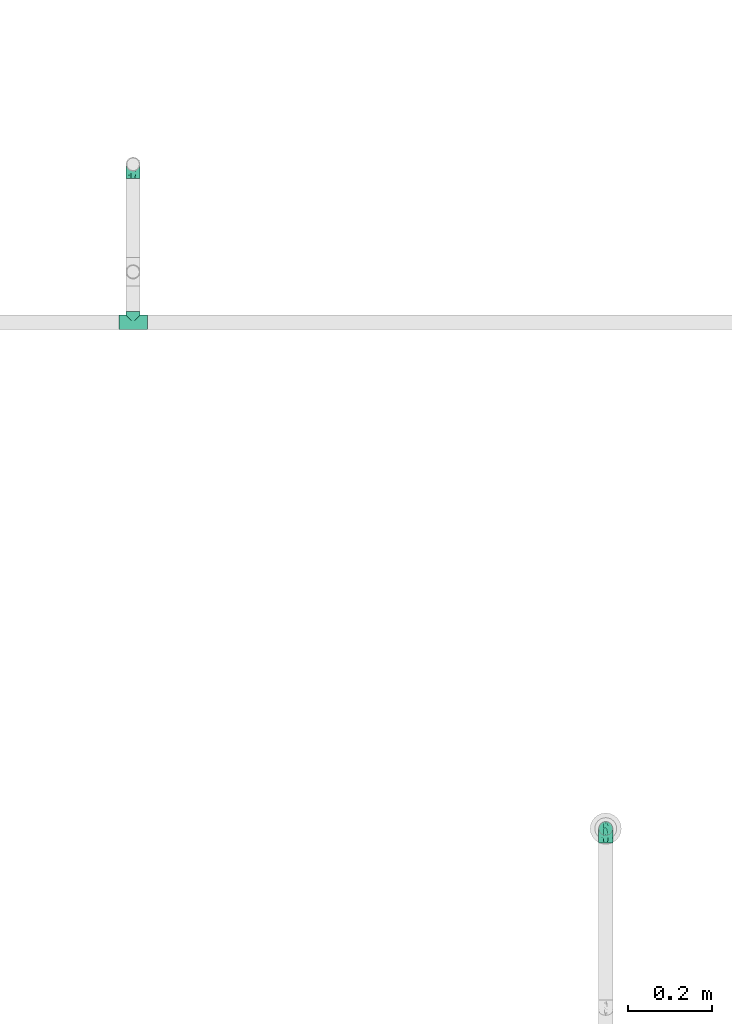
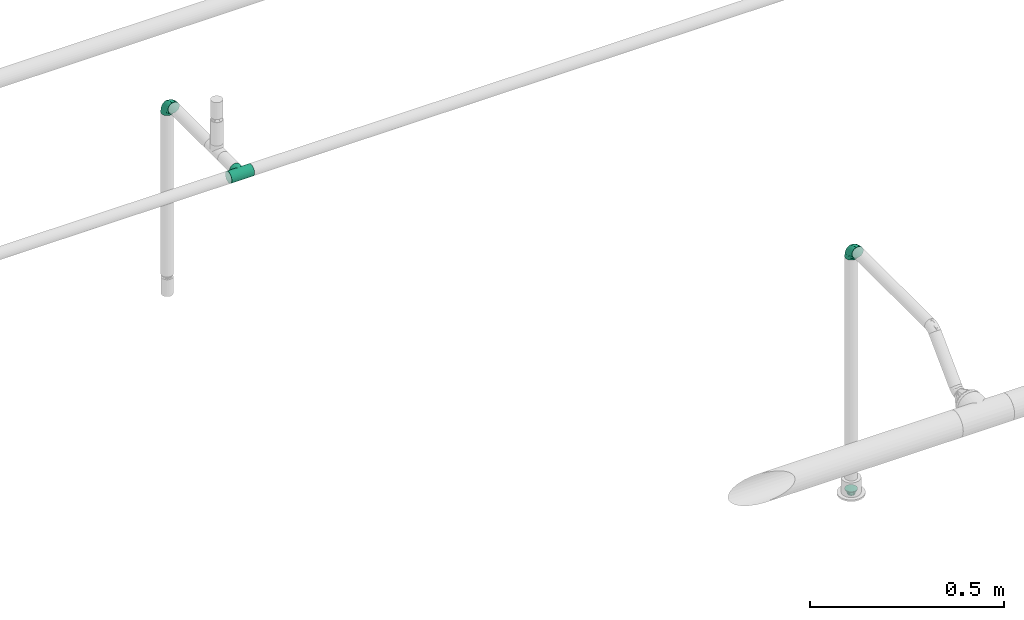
# One storey, part 30 of 51: 4 flow fittings.
"""IFC2X3 building model written with IfcOpenShell, lengths in millimetres."""

from ifc_helpers import new_model, entity, si_unit, converted_unit, derived_unit, direction, frame, origin_with_axes, place, context, subcontext, project, spatial, open_shell, surface_model, source, transform, mapped, type_object, element, save


model = new_model("IFC2X3")

# Units and contexts
model_context = context("Model", 3, precision=0.01, world=frame((0.0, 4.29681676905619e-09, 0.0)), true_north=direction((4.01073788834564e-13, 1.0)))
plan_context = context("Plan", 3, precision=0.01, world=frame((0.0, 4.29681676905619e-09, 0.0)), true_north=direction((4.01073788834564e-13, 1.0)))
body_context = subcontext(model_context, "Body", "Model", "MODEL_VIEW")
ifc_project = project(units=[converted_unit("PLANEANGLEUNIT", "DEGREE", entity("IfcPositiveLengthMeasure", 0.0174532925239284), si_unit("PLANEANGLEUNIT", "RADIAN"), dimensions=[0, 0, 0, 0, 0, 0, 0]), si_unit("AREAUNIT", "SQUARE_METRE"), si_unit("LENGTHUNIT", "METRE", prefix="MILLI"), si_unit("MASSUNIT", "GRAM", prefix="KILO"), si_unit("POWERUNIT", "WATT"), si_unit("PRESSUREUNIT", "PASCAL"), si_unit("FORCEUNIT", "NEWTON", prefix="KILO"), si_unit("ELECTRICVOLTAGEUNIT", "VOLT"), si_unit("ELECTRICCURRENTUNIT", "AMPERE"), si_unit("THERMODYNAMICTEMPERATUREUNIT", "DEGREE_CELSIUS"), si_unit("TIMEUNIT", "SECOND"), si_unit("VOLUMEUNIT", "CUBIC_METRE"), derived_unit("LINEARVELOCITYUNIT", [(si_unit("LENGTHUNIT", "METRE"), 1), (si_unit("TIMEUNIT", "SECOND"), -1)]), derived_unit("VOLUMETRICFLOWRATEUNIT", [(si_unit("VOLUMEUNIT", "CUBIC_METRE"), 1), (si_unit("TIMEUNIT", "SECOND"), -1)]), derived_unit("THERMALTRANSMITTANCEUNIT", [(si_unit("POWERUNIT", "WATT"), 1), (si_unit("THERMODYNAMICTEMPERATUREUNIT", "KELVIN"), -1), (si_unit("AREAUNIT", "SQUARE_METRE"), -1)]), derived_unit("SOUNDPRESSUREUNIT", [(si_unit("PRESSUREUNIT", "PASCAL"), 1)])], contexts=[model_context, plan_context])

# Site, building, storey
site_placement = place(None, frame((0.0, -4.29681676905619e-09, 0.0), z_axis=(0.0, 0.0, 1.0), x_axis=(1.0, 0.0, 0.0)))
site = spatial("IfcSite", under=ifc_project, at=site_placement, Name="ENGM", CompositionType="ELEMENT")
building_placement = place(site_placement, frame((0.0, 4.29681676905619e-09, 0.0), z_axis=(0.0, 0.0, 1.0), x_axis=(1.0, 0.0, 0.0)))
building = spatial("IfcBuilding", under=site, at=building_placement, Name="TH", CompositionType="ELEMENT")
storey_placement = place(building_placement, frame((0.0, 0.0, 210200.0), z_axis=(0.0, 0.0, 1.0), x_axis=(1.0, 0.0, 0.0)))
storey = spatial("IfcBuildingStorey", under=building, at=storey_placement, Name="Nivå F - 0,7 m", CompositionType="ELEMENT", Elevation=210200.0)

# Flow fittings
pipe_fitting_type_1 = type_object("IfcPipeFittingType", Name="magi_pipe_fe_elbow_short_001", PredefinedType="BEND")
shared_shape_1 = source(origin_with_axes(), body_context, "Body", "SurfaceModel", [
    surface_model("IfcShellBasedSurfaceModel", [(-33.8, 8.45, -14.63583), (-33.8, 4.37404, -16.32415), (-33.8, 11.9501, -11.9501), (-33.8, -11.9501, -11.9501), (-33.8, -14.63583, -8.45), (-33.8, -8.45, -14.63583), (-33.8, 0.0, -16.9), (-33.8, -4.37404, -16.32415), (-33.8, -4.37404, 16.32415), (-33.8, 0.0, 16.9), (-33.8, -8.45, 14.63583), (-33.8, 16.32415, -4.37404), (-33.8, 14.63583, -8.45), (-33.8, -16.32415, -4.37404), (-33.8, -16.9, 0.0), (-33.8, -16.32415, 4.37404), (-33.8, 11.9501, 11.9501), (-33.8, 14.63583, 8.45), (-33.8, 16.32415, 4.37404), (-33.8, 4.37404, 16.32415), (-33.8, 8.45, 14.63583), (-33.8, -14.63583, 8.45), (-33.8, -11.9501, 11.9501), (-33.8, 16.9, 0.0), (-11.9501, 33.8, -11.9501), (0.0, 33.8, -16.9), (-4.37404, 33.8, -16.32415), (-8.45, 33.8, -14.63583), (-14.63583, 33.8, -8.45), (-16.32415, 33.8, -4.37404), (14.63583, 33.8, -8.45), (8.45, 33.8, 14.63583), (16.32415, 33.8, -4.37404), (8.45, 33.8, -14.63583), (11.9501, 33.8, -11.9501), (4.37404, 33.8, -16.32415), (16.32415, 33.8, 4.37404), (16.9, 33.8, 0.0), (-11.9501, 33.8, 11.9501), (-16.32415, 33.8, 4.37404), (-14.63583, 33.8, 8.45), (-8.45, 33.8, 14.63583), (-4.37404, 33.8, 16.32415), (11.9501, 33.8, 11.9501), (14.63583, 33.8, 8.45), (0.0, 33.8, 16.9), (4.37404, 33.8, 16.32415), (-16.9, 33.8, 0.0), (-24.79389, -13.12945, 9.48721), (-22.19287, -9.75018, 12.59315), (-24.09897, -14.97035, 0.0), (-14.93934, -10.76256, 8.5297), (-22.46095, -14.75051, 5.27077), (14.75051, 22.46094, 5.27077), (11.9251, 13.23888, 4.33236), (13.04069, 14.39795, 0.0), (7.71387, 13.68847, 11.55891), (9.75018, 22.19287, 12.59315), (4.10169, 13.0571, 14.04018), (-24.84007, -6.39063, 15.2048), (-25.81779, -2.23879, 16.61097), (-23.66549, 2.59054, 16.87119), (-26.50418, 14.06512, 11.08152), (-24.21253, 17.66365, 7.72657), (-29.58514, 15.86957, 7.00283), (-6.17382, -7.5455, 0.0), (-13.23888, -11.9251, 4.33236), (-14.39795, -13.04069, 0.0), (-17.81434, 18.87373, 11.97104), (-6.30846, 29.15138, 15.82987), (-2.31622, 25.28002, 16.85849), (-29.23923, 10.23435, 13.77053), (-1.45439, -2.85688, 7.61475), (-0.28326, 0.34872, 10.09509), (-5.74484, -4.04709, 10.4122), (-4.41137, 11.31918, 16.59407), (-8.39727, 3.10034, 15.7812), (-1.72649, 9.1306, 15.53089), (-17.39909, 24.75344, 7.64977), (-26.19233, 20.0512, 0.0), (-28.14518, 17.29657, 4.25857), (-26.05147, 6.6281, 15.96447), (-5.87354, 16.61944, 16.86968), (-12.51807, 12.51807, 16.48937), (-10.06312, 7.38516, 16.81295), (-3.01882, 3.01882, 13.81718), (-13.0571, -4.10169, 14.04018), (-16.82553, -0.15166, 16.38038), (10.76256, 14.93934, 8.5297), (13.12945, 24.79389, 9.48721), (6.39063, 24.84007, 15.2048), (2.23879, 25.81779, 16.61097), (-13.68847, -7.71387, 11.55891), (14.97035, 24.09897, 0.0), (-7.30894, 22.89991, 16.09489), (-10.67958, 26.17414, 14.008), (-12.78295, 18.26924, 15.06066), (-13.88562, 22.45231, 12.93244), (-18.04944, 15.16501, 14.04434), (-23.11658, 20.08178, 4.02986), (-21.84989, 21.84989, 0.0), (-18.55817, 25.48277, 3.93065), (-13.95142, 26.94732, 11.03289), (-18.57098, 7.23906, 16.59756), (-16.58335, 4.14122, 16.89279), (-17.96666, 11.46709, 15.63151), (-9.84453, 17.54304, 16.18938), (0.15166, 16.82553, 16.38038), (-23.27207, 11.47201, 14.23154), (3.84842, 5.86994, 10.70473), (-8.0212, -7.54413, 7.93275), (1.00345, -2.19508, 4.57414), (5.13203, 3.01004, 5.90201), (5.24161, 1.7543, 2.53265), (8.70457, 7.04947, 3.99182), (-20.0512, 26.19233, 0.0), (8.4852, 8.76699, 7.09296), (-4.55488, -6.72064, 4.90681), (2.05031, -2.05031, 0.0), (7.5455, 6.17382, 0.0), (-26.75399, 2.1369, -16.845), (-14.61995, 24.73803, -11.27736), (-28.45274, -13.45335, -9.81895), (-26.00469, 6.63555, -15.96645), (-23.06726, 20.04573, -4.26202), (-13.80647, -4.26506, -14.17873), (-14.67501, -0.21081, -16.07388), (-6.7902, -0.2828, -13.8478), (-24.53586, 11.08096, -14.13417), (-26.72048, 14.00837, -11.05776), (10.0967, 24.44989, -12.75976), (5.83237, 21.40218, -15.03047), (6.66249, 28.54238, -15.38093), (-20.38182, 15.48705, -12.74596), (12.53268, 21.23441, -9.15363), (12.54494, 15.67504, -5.54878), (9.7522, 12.89279, -8.66343), (-15.65186, 19.64213, -13.01327), (-12.03528, 20.66498, -14.67665), (-15.61907, 15.61906, -14.83879), (-25.56551, -15.26206, 0.0), (-24.65452, -15.12934, -5.50955), (13.45335, 28.45274, -9.81895), (15.12934, 24.65452, -5.50955), (-7.35442, -8.31014, -5.65563), (-15.67504, -12.54494, -5.54878), (-24.44989, -10.0967, -12.75976), (0.16522, 0.41303, -9.71728), (-5.70658, -5.33066, -8.89288), (-5.13869, -2.37198, -11.53565), (-21.23441, -12.53268, -9.15363), (0.71146, 7.93863, -14.09382), (0.21081, 14.67501, -16.07388), (3.49291, 14.42772, -14.76381), (-24.89911, -2.13088, -16.591), (-28.54238, -6.66249, -15.38093), (-18.44386, -7.71663, -13.26957), (2.13088, 24.89911, -16.591), (-28.64342, 17.44413, -2.89318), (1.70017, -1.28722, -5.09504), (-16.57067, 26.81947, -7.36596), (-17.69055, 27.4263, -3.76405), (-12.89279, -9.7522, -8.66343), (-5.96611, 5.96611, -15.95814), (-20.53709, 20.09345, -8.28985), (-2.1369, 26.75399, -16.845), (-6.89872, 24.58781, -16.02578), (-10.60739, 26.53157, -13.98044), (-21.40218, -5.83237, -15.03047), (2.93192, 5.89627, -11.55917), (6.89393, 12.61842, -11.82233), (5.58056, 5.95325, -8.79455), (-3.99512, 18.61798, -16.89635), (8.31014, 7.35442, -5.65563), (-9.1383, 9.86148, -16.89041), (-9.99983, 16.02119, -16.39699), (-16.68576, 9.78031, -16.34199), (-27.01915, 16.61158, -7.12979), (15.26206, 25.56551, 0.0), (-18.61798, 3.99512, -16.89635), (-19.37495, 27.82495, 0.0), (-12.61842, -6.89393, -11.82233), (-18.84705, 19.14018, -10.96545)], [open_shell([[[0, 1, 2]], [[3, 4, 5]], [[6, 7, 5]], [[8, 9, 10]], [[1, 6, 2]], [[11, 12, 2]], [[4, 2, 6]], [[2, 13, 10]], [[5, 4, 6]], [[2, 4, 13]], [[14, 15, 13]], [[11, 2, 16]], [[11, 17, 18]], [[11, 16, 17]], [[19, 20, 16]], [[16, 2, 10]], [[19, 16, 10]], [[21, 22, 15]], [[22, 13, 15]], [[22, 10, 13]], [[10, 9, 19]], [[11, 18, 23]], [[24, 25, 26]], [[24, 26, 27]], [[24, 28, 29]], [[25, 24, 30]], [[31, 32, 24]], [[33, 30, 34]], [[33, 35, 25]], [[25, 30, 33]], [[32, 30, 24]], [[32, 36, 37]], [[38, 24, 29]], [[39, 40, 29]], [[40, 38, 29]], [[38, 41, 42]], [[38, 31, 24]], [[31, 38, 42]], [[36, 43, 44]], [[36, 32, 43]], [[31, 45, 46]], [[32, 31, 43]], [[42, 45, 31]], [[39, 29, 47]], [[22, 48, 49]], [[15, 14, 50]], [[51, 48, 52]], [[53, 54, 55]], [[48, 22, 21]], [[15, 52, 21]], [[56, 57, 58]], [[49, 10, 22]], [[49, 59, 10]], [[9, 60, 61]], [[62, 63, 64]], [[65, 66, 67]], [[57, 43, 31]], [[62, 68, 63]], [[42, 69, 70]], [[20, 71, 16]], [[8, 60, 9]], [[72, 73, 74]], [[75, 76, 77]], [[16, 62, 17]], [[40, 39, 78]], [[79, 23, 80]], [[64, 18, 17]], [[9, 61, 19]], [[19, 81, 20]], [[82, 83, 84]], [[74, 85, 86]], [[59, 86, 87]], [[88, 89, 57]], [[90, 31, 46]], [[44, 53, 36]], [[46, 45, 91]], [[54, 53, 88]], [[44, 89, 53]], [[92, 86, 49]], [[89, 44, 43]], [[10, 59, 8]], [[53, 55, 93]], [[93, 36, 53]], [[66, 52, 67]], [[94, 82, 70]], [[95, 96, 94]], [[97, 98, 96]], [[79, 99, 100]], [[41, 38, 95]], [[101, 100, 99]], [[68, 78, 63]], [[42, 41, 69]], [[23, 18, 80]], [[95, 94, 69]], [[78, 101, 99]], [[38, 102, 95]], [[70, 45, 42]], [[97, 95, 102]], [[15, 50, 52]], [[90, 57, 31]], [[57, 90, 58]], [[81, 19, 61]], [[103, 104, 84]], [[105, 81, 103]], [[38, 40, 102]], [[106, 96, 83]], [[94, 106, 82]], [[91, 70, 107]], [[71, 62, 16]], [[62, 108, 98]], [[86, 59, 49]], [[67, 52, 50]], [[60, 59, 87]], [[92, 49, 51]], [[86, 85, 76]], [[91, 90, 46]], [[37, 36, 93]], [[107, 77, 58]], [[107, 58, 90]], [[58, 85, 109]], [[110, 74, 92]], [[72, 74, 110]], [[66, 51, 52]], [[72, 111, 112]], [[113, 114, 112]], [[56, 88, 57]], [[52, 48, 21]], [[49, 48, 51]], [[57, 89, 43]], [[53, 89, 88]], [[103, 81, 61]], [[71, 81, 108]], [[18, 64, 80]], [[63, 78, 99]], [[47, 115, 101]], [[101, 115, 100]], [[40, 78, 102]], [[68, 102, 78]], [[97, 96, 95]], [[105, 98, 108]], [[103, 84, 83]], [[107, 70, 82]], [[76, 84, 87]], [[82, 84, 75]], [[70, 91, 45]], [[90, 91, 107]], [[59, 60, 8]], [[61, 60, 87]], [[73, 85, 74]], [[109, 112, 116]], [[103, 61, 104]], [[105, 103, 83]], [[96, 105, 83]], [[81, 105, 108]], [[96, 98, 105]], [[62, 98, 68]], [[61, 87, 104]], [[87, 84, 104]], [[86, 76, 87]], [[77, 76, 85]], [[58, 77, 85]], [[75, 77, 107]], [[82, 75, 107]], [[76, 75, 84]], [[81, 71, 20]], [[62, 71, 108]], [[95, 69, 41]], [[70, 69, 94]], [[62, 64, 17]], [[80, 63, 99]], [[63, 80, 64]], [[80, 99, 79]], [[66, 65, 117]], [[110, 66, 117]], [[112, 114, 116]], [[118, 117, 65]], [[110, 92, 51]], [[112, 111, 113]], [[119, 55, 54]], [[74, 86, 92]], [[58, 109, 56]], [[116, 56, 109]], [[66, 110, 51]], [[72, 110, 117]], [[111, 72, 117]], [[73, 112, 109]], [[117, 118, 111]], [[113, 111, 118]], [[118, 119, 113]], [[114, 119, 54]], [[119, 114, 113]], [[116, 54, 88]], [[54, 116, 114]], [[116, 88, 56]], [[112, 73, 72]], [[85, 73, 109]], [[78, 39, 101]], [[47, 101, 39]], [[102, 68, 97]], [[97, 68, 98]], [[82, 106, 83]], [[94, 96, 106]], [[1, 120, 6]], [[28, 24, 121]], [[3, 122, 4]], [[0, 123, 1]], [[100, 124, 79]], [[125, 126, 127]], [[128, 2, 129]], [[130, 131, 132]], [[128, 129, 133]], [[134, 135, 136]], [[137, 138, 139]], [[128, 0, 2]], [[67, 140, 141]], [[134, 142, 143]], [[141, 13, 4]], [[144, 65, 145]], [[146, 3, 5]], [[147, 148, 149]], [[145, 141, 150]], [[151, 152, 153]], [[154, 7, 6]], [[5, 155, 146]], [[150, 146, 156]], [[155, 5, 7]], [[143, 135, 134]], [[35, 157, 25]], [[23, 79, 158]], [[148, 159, 144]], [[160, 161, 29]], [[145, 162, 144]], [[163, 152, 151]], [[29, 28, 160]], [[121, 164, 160]], [[33, 34, 130]], [[25, 165, 26]], [[26, 165, 166]], [[142, 34, 30]], [[24, 27, 167]], [[124, 161, 164]], [[157, 35, 132]], [[155, 154, 168]], [[123, 0, 128]], [[169, 170, 171]], [[172, 157, 152]], [[26, 166, 27]], [[132, 35, 33]], [[142, 130, 34]], [[168, 154, 126]], [[136, 135, 173]], [[133, 137, 139]], [[2, 12, 129]], [[170, 131, 130]], [[30, 32, 143]], [[172, 174, 175]], [[176, 123, 128]], [[158, 177, 11]], [[135, 55, 119]], [[167, 27, 166]], [[175, 166, 172]], [[137, 167, 138]], [[122, 141, 4]], [[140, 14, 13]], [[32, 37, 178]], [[170, 130, 134]], [[152, 157, 131]], [[165, 157, 172]], [[153, 170, 151]], [[152, 163, 174]], [[168, 125, 156]], [[122, 146, 150]], [[120, 154, 6]], [[179, 174, 126]], [[179, 126, 154]], [[126, 163, 127]], [[162, 145, 150]], [[140, 13, 141]], [[32, 178, 143]], [[55, 143, 178]], [[177, 129, 12]], [[128, 133, 139]], [[176, 128, 139]], [[120, 123, 179]], [[121, 160, 28]], [[161, 100, 180]], [[166, 175, 138]], [[121, 24, 167]], [[161, 47, 29]], [[79, 124, 158]], [[124, 164, 177]], [[161, 124, 100]], [[136, 171, 170]], [[127, 163, 151]], [[147, 171, 159]], [[148, 144, 162]], [[127, 151, 169]], [[127, 181, 125]], [[129, 177, 164]], [[12, 11, 177]], [[159, 65, 144]], [[67, 141, 145]], [[143, 55, 135]], [[135, 119, 173]], [[123, 120, 1]], [[154, 120, 179]], [[157, 165, 25]], [[166, 165, 172]], [[172, 152, 174]], [[176, 139, 175]], [[126, 174, 163]], [[176, 174, 179]], [[174, 176, 175]], [[123, 176, 179]], [[150, 181, 162]], [[127, 149, 181]], [[181, 148, 162]], [[159, 148, 147]], [[171, 136, 173]], [[170, 134, 136]], [[159, 171, 173]], [[171, 147, 169]], [[169, 147, 149]], [[151, 170, 169]], [[164, 182, 129]], [[182, 121, 137]], [[181, 149, 148]], [[169, 149, 127]], [[182, 137, 133]], [[167, 137, 121]], [[166, 138, 167]], [[175, 139, 138]], [[129, 182, 133]], [[121, 182, 164]], [[161, 160, 164]], [[47, 161, 180]], [[177, 158, 124]], [[23, 158, 11]], [[130, 132, 33]], [[157, 132, 131]], [[143, 142, 30]], [[130, 142, 134]], [[154, 155, 7]], [[146, 155, 168]], [[146, 122, 3]], [[141, 122, 150]], [[152, 131, 153]], [[159, 119, 118]], [[67, 145, 65]], [[170, 153, 131]], [[119, 159, 173]], [[159, 118, 65]], [[156, 125, 181]], [[126, 125, 168]], [[150, 156, 181]], [[168, 156, 146]]])]),
])
for number, where, z_axis, x_axis, name in (
    (1, (900100.0, 486575.40642, 2949.56988), (-1.0, 0.0, 0.0), (0.0, 1.0, 0.0), "magi_pipe_fe_elbow_short_001"),
    (2, (901220.93402, 485000.0, 3058.80692999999), (1.0, 0.0, 0.0), (0.0, 0.0, 1.0), "magi_pipe_fe_elbow_short_001"),
):
    element("IfcFlowFitting", number, at=place(storey_placement, frame(where, z_axis=z_axis, x_axis=x_axis)), inside=storey, type_object=pipe_fitting_type_1, Name=name, context=body_context, shape_type="MappedRepresentation", body=[
        mapped(shared_shape_1, transform((0.0, 0.0, 0.0), scale=1.0)),
    ])
pipe_fitting_type_2 = type_object("IfcPipeFittingType", Name="magi_pipe_fe_reducer_centric_short_NOR", PredefinedType="TRANSITION")
shared_shape_2 = source(origin_with_axes(), body_context, "Body", "SurfaceModel", [
    surface_model("IfcShellBasedSurfaceModel", [(-2.0, -7.56604, -7.56604), (-2.0, -10.33541, -2.76936), (-2.0, -5.35, -9.26647), (12.4, 11.9501, 11.9501), (12.4, 0.0, 16.9), (12.4, 11.9501, -11.9501), (12.4, 16.9, 0.0), (0.0, -10.7, 0.0), (0.0, -5.35, 9.26647), (0.0, -5.35, -9.26647), (12.4, -15.66253, -2.98753), (12.4, -16.9, 0.0), (12.4, -11.9501, -11.9501), (0.0, -6.6875, -6.94985), (12.4, -8.96258, -13.18758), (0.0, 10.7, 0.0), (12.4, 15.66253, -2.98753), (12.4, -5.97505, -14.42505), (12.4, 8.96258, -13.18758), (0.0, 6.6875, -6.94985), (12.4, 5.97505, -14.42505), (0.0, 5.35, -9.26647), (0.0, -9.3625, -2.31662), (0.0, -8.025, -4.63324), (12.4, -14.42505, -5.97505), (12.4, 14.42505, -5.97505), (0.0, 8.025, -4.63324), (0.0, 9.3625, -2.31662), (12.4, 13.18758, -8.96258), (12.4, -13.18758, -8.96258), (12.4, 15.66253, 2.98753), (0.0, 6.6875, 6.94985), (12.4, 8.96258, 13.18758), (12.4, -15.66253, 2.98753), (0.0, 5.35, 9.26647), (12.4, 5.97505, 14.42505), (12.4, -8.96258, 13.18758), (0.0, -6.6875, 6.94985), (12.4, -11.9501, 11.9501), (12.4, -5.97505, 14.42505), (0.0, 9.3625, 2.31662), (0.0, 8.025, 4.63324), (12.4, 14.42505, 5.97505), (12.4, -14.42505, 5.97505), (0.0, -8.025, 4.63324), (0.0, -9.3625, 2.31662), (12.4, -13.18758, 8.96258), (12.4, 13.18758, 8.96258), (14.4, -11.9501, -11.9501), (14.4, -8.45, -14.63583), (14.4, -4.37404, -16.32415), (14.4, 8.45, -14.63583), (14.4, 16.9, 0.0), (14.4, -14.63583, -8.45), (14.4, -16.32415, -4.37404), (14.4, -4.37404, 16.32415), (14.4, 4.37404, -16.32415), (14.4, 0.0, -16.9), (14.4, 14.63583, -8.45), (14.4, 16.32415, -4.37404), (14.4, 11.9501, -11.9501), (14.4, -16.32415, 4.37404), (14.4, -16.9, 0.0), (14.4, -11.9501, 11.9501), (14.4, -14.63583, 8.45), (14.4, -8.45, 14.63583), (14.4, 0.0, 16.9), (14.4, 16.32415, 4.37404), (14.4, 14.63583, 8.45), (14.4, 11.9501, 11.9501), (14.4, 8.45, 14.63583), (14.4, 4.37404, 16.32415), (12.4, 14.63583, 8.45), (12.4, -4.37404, 16.32415), (12.4, -8.45, 14.63583), (12.4, -16.32415, 4.37404), (12.4, -14.63583, 8.45), (12.4, 8.45, 14.63583), (12.4, 4.37404, 16.32415), (12.4, 16.32415, 4.37404), (12.4, 16.32415, -4.37404), (12.4, 8.45, -14.63583), (12.4, -16.32415, -4.37404), (12.4, -14.63583, -8.45), (12.4, -4.37404, -16.32415), (12.4, -8.45, -14.63583), (12.4, 14.63583, -8.45), (12.4, 4.37404, -16.32415), (12.4, 0.0, -16.9), (-2.0, -2.76936, 10.33541), (-2.0, 0.0, 10.7), (-2.0, -10.33541, 2.76936), (-2.0, -5.35, 9.26647), (-2.0, -7.56604, 7.56604), (-2.0, -9.26647, 5.35), (-2.0, 9.26647, 5.35), (-2.0, 5.35, 9.26647), (-2.0, 7.56604, 7.56604), (-2.0, 2.76936, 10.33541), (-2.0, 10.7, 0.0), (-2.0, 10.33541, -2.76936), (-2.0, 10.33541, 2.76936), (-2.0, -9.26647, -5.35), (-2.0, 5.35, -9.26647), (-2.0, -2.76936, -10.33541), (-2.0, 9.26647, -5.35), (-2.0, 7.56604, -7.56604), (-2.0, 2.76936, -10.33541), (-2.0, 0.0, -10.7), (-2.0, -10.7, 0.0), (0.0, -2.76936, -10.33541), (0.0, 0.0, -10.7), (0.0, -7.56604, -7.56604), (0.0, -10.33541, -2.76936), (0.0, 10.33541, -2.76936), (0.0, -9.26647, -5.35), (0.0, 9.26647, 5.35), (0.0, 2.76936, -10.33541), (0.0, 9.26647, -5.35), (0.0, 7.56604, -7.56604), (0.0, -10.33541, 2.76936), (0.0, -7.56604, 7.56604), (0.0, -9.26647, 5.35), (0.0, 0.0, 10.7), (0.0, -2.76936, 10.33541), (0.0, 10.33541, 2.76936), (0.0, 2.76936, 10.33541), (0.0, 7.56604, 7.56604), (12.4, -2.98753, -15.66253), (0.0, -2.675, -9.26647), (0.0, 2.675, -9.26647), (12.4, 2.98753, -15.66253), (0.0, 0.0, -9.26647), (12.4, 2.98753, 15.66253), (0.0, 2.675, 9.26647), (0.0, -2.675, 9.26647), (12.4, -2.98753, 15.66253), (0.0, 0.0, 9.26647)], [open_shell([[[0, 1, 2]], [[3, 4, 5]], [[5, 6, 3]], [[7, 8, 9]], [[10, 11, 7]], [[12, 13, 14]], [[15, 6, 16]], [[9, 17, 14]], [[18, 19, 5]], [[18, 20, 21]], [[22, 23, 24]], [[25, 26, 27]], [[26, 25, 28]], [[29, 24, 23]], [[30, 6, 15]], [[3, 31, 32]], [[7, 11, 33]], [[34, 35, 32]], [[36, 37, 38]], [[36, 39, 8]], [[40, 41, 42]], [[43, 44, 45]], [[44, 43, 46]], [[47, 42, 41]], [[48, 49, 50]], [[48, 50, 51]], [[51, 52, 48]], [[53, 48, 54]], [[48, 55, 54]], [[56, 51, 57]], [[51, 50, 57]], [[58, 59, 60]], [[51, 60, 59]], [[59, 52, 51]], [[61, 62, 54]], [[63, 64, 61]], [[55, 63, 61]], [[48, 52, 55]], [[65, 63, 55]], [[66, 55, 52]], [[67, 68, 66]], [[66, 52, 67]], [[69, 70, 68]], [[70, 66, 68]], [[71, 66, 70]], [[61, 54, 55]], [[4, 72, 73]], [[74, 73, 75]], [[75, 76, 38]], [[74, 75, 38]], [[75, 73, 72]], [[3, 72, 77]], [[4, 78, 77]], [[77, 72, 4]], [[75, 72, 79]], [[6, 80, 79]], [[81, 75, 79]], [[12, 82, 75]], [[83, 82, 12]], [[84, 85, 12]], [[12, 75, 81]], [[12, 81, 84]], [[86, 5, 80]], [[81, 80, 5]], [[87, 88, 81]], [[81, 79, 80]], [[81, 88, 84]], [[11, 75, 82]], [[6, 59, 80]], [[80, 58, 86]], [[81, 5, 51]], [[60, 5, 86]], [[87, 81, 56]], [[59, 58, 80]], [[6, 52, 59]], [[81, 51, 56]], [[51, 5, 60]], [[86, 58, 60]], [[87, 56, 57]], [[57, 88, 87]], [[88, 50, 84]], [[84, 49, 85]], [[83, 12, 53]], [[48, 12, 85]], [[82, 83, 54]], [[49, 48, 85]], [[84, 50, 49]], [[82, 54, 62]], [[54, 83, 53]], [[12, 48, 53]], [[82, 62, 11]], [[57, 50, 88]], [[11, 61, 75]], [[75, 64, 76]], [[74, 38, 65]], [[63, 38, 76]], [[73, 74, 55]], [[61, 64, 75]], [[11, 62, 61]], [[74, 65, 55]], [[65, 38, 63]], [[76, 64, 63]], [[73, 55, 66]], [[66, 4, 73]], [[4, 71, 78]], [[78, 70, 77]], [[72, 3, 68]], [[69, 3, 77]], [[79, 72, 67]], [[70, 69, 77]], [[78, 71, 70]], [[79, 67, 52]], [[67, 72, 68]], [[3, 69, 68]], [[79, 52, 6]], [[66, 71, 4]], [[89, 90, 91]], [[92, 89, 93]], [[91, 94, 93]], [[89, 91, 93]], [[95, 91, 90]], [[96, 97, 98]], [[95, 98, 97]], [[99, 100, 101]], [[90, 98, 95]], [[100, 95, 101]], [[1, 91, 95]], [[1, 95, 100]], [[102, 1, 0]], [[100, 2, 1]], [[2, 103, 104]], [[105, 106, 100]], [[103, 100, 106]], [[107, 108, 103]], [[2, 100, 103]], [[103, 108, 104]], [[109, 91, 1]], [[110, 111, 9]], [[112, 9, 113]], [[113, 9, 114]], [[115, 112, 113]], [[113, 114, 116]], [[117, 21, 111]], [[21, 9, 111]], [[118, 114, 119]], [[21, 119, 114]], [[21, 114, 9]], [[120, 7, 113]], [[121, 122, 120]], [[116, 121, 113]], [[121, 123, 124]], [[8, 121, 124]], [[123, 121, 116]], [[15, 125, 114]], [[114, 125, 116]], [[34, 126, 127]], [[116, 127, 126]], [[116, 126, 123]], [[121, 120, 113]], [[99, 114, 100]], [[100, 118, 105]], [[103, 106, 21]], [[119, 106, 105]], [[107, 103, 117]], [[114, 118, 100]], [[99, 15, 114]], [[103, 21, 117]], [[21, 106, 119]], [[105, 118, 119]], [[107, 117, 111]], [[111, 108, 107]], [[108, 110, 104]], [[104, 9, 2]], [[102, 0, 115]], [[112, 0, 2]], [[1, 102, 113]], [[9, 112, 2]], [[104, 110, 9]], [[1, 113, 7]], [[113, 102, 115]], [[0, 112, 115]], [[1, 7, 109]], [[111, 110, 108]], [[109, 120, 91]], [[91, 122, 94]], [[92, 93, 8]], [[121, 93, 94]], [[89, 92, 124]], [[120, 122, 91]], [[109, 7, 120]], [[92, 8, 124]], [[8, 93, 121]], [[94, 122, 121]], [[89, 124, 123]], [[123, 90, 89]], [[90, 126, 98]], [[98, 34, 96]], [[95, 97, 116]], [[127, 97, 96]], [[101, 95, 125]], [[34, 127, 96]], [[98, 126, 34]], [[101, 125, 15]], [[125, 95, 116]], [[97, 127, 116]], [[101, 15, 99]], [[123, 126, 90]], [[4, 38, 11]], [[11, 88, 5]], [[88, 11, 12]], [[4, 11, 5]], [[8, 34, 15]], [[21, 9, 15]], [[8, 15, 9]], [[128, 17, 129]], [[16, 25, 27]], [[130, 21, 20]], [[18, 21, 19]], [[24, 10, 22]], [[26, 28, 19]], [[20, 131, 130]], [[9, 129, 17]], [[13, 12, 29]], [[9, 14, 13]], [[129, 132, 128]], [[130, 131, 132]], [[29, 23, 13]], [[132, 131, 88]], [[16, 27, 15]], [[22, 10, 7]], [[5, 19, 28]], [[132, 88, 128]], [[133, 35, 134]], [[33, 43, 45]], [[135, 8, 39]], [[36, 8, 37]], [[42, 30, 40]], [[44, 46, 37]], [[39, 136, 135]], [[34, 134, 35]], [[31, 3, 47]], [[34, 32, 31]], [[134, 137, 133]], [[135, 136, 137]], [[47, 41, 31]], [[137, 136, 4]], [[33, 45, 7]], [[40, 30, 15]], [[38, 37, 46]], [[137, 4, 133]]])]),
])
flow_fitting_1_placement = place(storey_placement, frame((901220.93402, 485000.0, 2283.42931000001), z_axis=(1.0, 0.0, 0.0), x_axis=(0.0, 0.0, 1.0)))
element("IfcFlowFitting", 3, at=flow_fitting_1_placement, inside=storey, type_object=pipe_fitting_type_2, Name="magi_pipe_fe_reducer_centric_short_NOR", context=body_context, shape_type="MappedRepresentation", body=[
    mapped(shared_shape_2, transform((0.0, 0.0, 0.0), scale=1.0)),
])
pipe_fitting_type_3 = type_object("IfcPipeFittingType", Name="magi_pipe_fe_tee_centric_90_NOR", PredefinedType="JUNCTION")
shared_shape_3 = source(origin_with_axes(), body_context, "Body", "SurfaceModel", [
    surface_model("IfcShellBasedSurfaceModel", [(-33.8, 4.37404, -16.32415), (-33.8, 0.0, -16.9), (-33.8, 16.32415, -4.37404), (-33.8, 8.45, -14.63583), (-33.8, 11.9501, -11.9501), (-33.8, 14.63583, -8.45), (-33.8, -16.9, 0.0), (-33.8, -11.9501, -11.9501), (-33.8, -14.63583, -8.45), (-33.8, -8.45, -14.63583), (-33.8, -4.37404, -16.32415), (-33.8, -16.32415, -4.37404), (-33.8, 14.63583, 8.45), (-33.8, 16.32415, 4.37404), (-33.8, -8.45, 14.63583), (-33.8, 8.45, 14.63583), (-33.8, 11.9501, 11.9501), (-33.8, 4.37404, 16.32415), (-33.8, 0.0, 16.9), (-33.8, -11.9501, 11.9501), (-33.8, -14.63583, 8.45), (-33.8, -16.32415, 4.37404), (-33.8, -4.37404, 16.32415), (-33.8, 16.9, 0.0), (33.8, 4.37404, -16.32415), (33.8, -16.9, 0.0), (33.8, 0.0, -16.9), (33.8, 14.63583, -8.45), (33.8, 8.45, -14.63583), (33.8, 16.32415, -4.37404), (33.8, 11.9501, -11.9501), (33.8, -16.32415, 4.37404), (33.8, -8.45, -14.63583), (33.8, -4.37404, -16.32415), (33.8, -11.9501, -11.9501), (33.8, -14.63583, -8.45), (33.8, -16.32415, -4.37404), (33.8, 16.32415, 4.37404), (33.8, 8.45, 14.63583), (33.8, 14.63583, 8.45), (33.8, 11.9501, 11.9501), (33.8, -8.45, 14.63583), (33.8, 4.37404, 16.32415), (33.8, -14.63583, 8.45), (33.8, -11.9501, 11.9501), (33.8, 0.0, 16.9), (33.8, -4.37404, 16.32415), (33.8, 16.9, 0.0), (16.28698, -16.28698, 4.51047), (16.9, -16.9, 0.0), (14.62704, -14.62704, 8.4652), (9.47213, -9.47213, 13.99602), (12.26343, -12.26343, 11.62834), (-16.9, -16.9, 0.0), (-16.28698, -16.28698, 4.51047), (-14.62704, -14.62704, 8.4652), (-12.26343, -12.26343, 11.62834), (-9.47213, -9.47213, 13.99602), (-6.42894, -6.42894, 15.62942), (6.42894, -6.42894, 15.62942), (3.24522, -3.24522, 16.58549), (0.0, 0.0, 16.9), (-3.24522, -3.24522, 16.58549), (3.24522, -3.24522, -16.58549), (0.0, 0.0, -16.9), (-3.24522, -3.24522, -16.58549), (-6.42894, -6.42894, -15.62942), (6.42894, -6.42894, -15.62942), (9.47213, -9.47213, -13.99602), (12.26343, -12.26343, -11.62834), (14.62704, -14.62704, -8.4652), (16.28698, -16.28698, -4.51047), (-9.47213, -9.47213, -13.99602), (-12.26343, -12.26343, -11.62834), (-16.28698, -16.28698, -4.51047), (-14.62704, -14.62704, -8.4652), (4.37404, -25.35, -16.32415), (-16.9, -25.35, 0.0), (0.0, -25.35, -16.9), (14.63583, -25.35, -8.45), (8.45, -25.35, -14.63583), (16.32415, -25.35, -4.37404), (11.9501, -25.35, -11.9501), (-11.9501, -25.35, -11.9501), (-8.45, -25.35, -14.63583), (-4.37404, -25.35, -16.32415), (-14.63583, -25.35, -8.45), (-16.32415, -25.35, -4.37404), (16.9, -25.35, 0.0), (8.45, -25.35, 14.63583), (16.32415, -25.35, 4.37404), (14.63583, -25.35, 8.45), (-8.45, -25.35, 14.63583), (11.9501, -25.35, 11.9501), (4.37404, -25.35, 16.32415), (-16.32415, -25.35, 4.37404), (-11.9501, -25.35, 11.9501), (-14.63583, -25.35, 8.45), (0.0, -25.35, 16.9), (-4.37404, -25.35, 16.32415)], [open_shell([[[0, 1, 2]], [[3, 0, 4]], [[0, 2, 5]], [[4, 0, 5]], [[6, 2, 1]], [[7, 8, 9]], [[1, 10, 9]], [[11, 6, 8]], [[1, 9, 8]], [[1, 8, 6]], [[6, 12, 2]], [[12, 13, 2]], [[14, 12, 6]], [[12, 14, 15]], [[16, 12, 15]], [[17, 15, 18]], [[19, 14, 20]], [[21, 20, 14]], [[22, 18, 14]], [[14, 6, 21]], [[14, 18, 15]], [[23, 2, 13]], [[24, 25, 26]], [[27, 24, 28]], [[27, 29, 24]], [[27, 28, 30]], [[31, 25, 24]], [[26, 32, 33]], [[26, 34, 32]], [[35, 25, 36]], [[35, 34, 26]], [[25, 35, 26]], [[24, 29, 31]], [[29, 37, 38]], [[38, 37, 39]], [[38, 31, 29]], [[38, 39, 40]], [[41, 38, 42]], [[43, 41, 44]], [[41, 43, 31]], [[41, 45, 46]], [[41, 31, 38]], [[42, 45, 41]], [[29, 47, 37]], [[31, 43, 48]], [[25, 31, 49]], [[49, 31, 48]], [[43, 50, 48]], [[44, 41, 51]], [[50, 43, 52]], [[51, 52, 44]], [[52, 43, 44]], [[53, 54, 21]], [[53, 21, 6]], [[21, 54, 20]], [[54, 55, 20]], [[56, 57, 19]], [[19, 20, 56]], [[19, 57, 14]], [[56, 20, 55]], [[14, 57, 58]], [[51, 41, 59]], [[60, 45, 61]], [[59, 46, 60]], [[46, 59, 41]], [[60, 46, 45]], [[61, 45, 42]], [[39, 37, 13]], [[16, 38, 40]], [[12, 40, 39]], [[42, 38, 15]], [[23, 37, 47]], [[62, 61, 18]], [[62, 22, 58]], [[22, 62, 18]], [[58, 22, 14]], [[61, 17, 18]], [[42, 17, 61]], [[15, 17, 42]], [[15, 38, 16]], [[12, 16, 40]], [[13, 12, 39]], [[37, 23, 13]], [[5, 27, 30]], [[23, 47, 29]], [[30, 28, 3]], [[27, 2, 29]], [[26, 33, 63]], [[26, 64, 24]], [[64, 26, 63]], [[28, 24, 0]], [[64, 0, 24]], [[4, 30, 3]], [[2, 27, 5]], [[5, 30, 4]], [[2, 23, 29]], [[65, 66, 10]], [[1, 0, 64]], [[1, 65, 10]], [[66, 9, 10]], [[0, 3, 28]], [[1, 64, 65]], [[63, 33, 67]], [[32, 34, 68]], [[69, 68, 34]], [[35, 70, 69]], [[69, 34, 35]], [[32, 68, 67]], [[36, 25, 49]], [[36, 71, 35]], [[71, 36, 49]], [[35, 71, 70]], [[72, 9, 66]], [[72, 7, 9]], [[7, 72, 73]], [[7, 73, 8]], [[74, 53, 11]], [[75, 74, 8]], [[74, 11, 8]], [[11, 53, 6]], [[75, 8, 73]], [[32, 67, 33]], [[76, 77, 78]], [[79, 76, 80]], [[79, 81, 76]], [[79, 80, 82]], [[77, 76, 81]], [[78, 83, 84]], [[84, 85, 78]], [[86, 77, 87]], [[83, 78, 86]], [[77, 86, 78]], [[81, 88, 77]], [[89, 88, 90]], [[89, 90, 91]], [[92, 77, 89]], [[89, 91, 93]], [[92, 89, 94]], [[95, 96, 97]], [[96, 95, 92]], [[92, 98, 99]], [[95, 77, 92]], [[94, 98, 92]], [[89, 77, 88]], [[77, 95, 53]], [[54, 53, 95]], [[97, 96, 56]], [[96, 92, 57]], [[95, 97, 54]], [[58, 92, 99]], [[55, 54, 97]], [[56, 55, 97]], [[58, 57, 92]], [[98, 61, 62]], [[58, 99, 62]], [[56, 96, 57]], [[62, 99, 98]], [[94, 60, 98]], [[89, 59, 94]], [[91, 90, 48]], [[52, 93, 91]], [[93, 51, 89]], [[49, 90, 88]], [[59, 60, 94]], [[51, 59, 89]], [[49, 48, 90]], [[50, 52, 91]], [[48, 50, 91]], [[51, 93, 52]], [[98, 60, 61]], [[88, 81, 49]], [[71, 49, 81]], [[79, 82, 69]], [[82, 80, 68]], [[81, 79, 71]], [[67, 80, 76]], [[70, 71, 79]], [[69, 70, 79]], [[67, 68, 80]], [[78, 64, 63]], [[67, 76, 63]], [[69, 82, 68]], [[63, 76, 78]], [[85, 65, 78]], [[84, 66, 85]], [[86, 87, 74]], [[86, 73, 83]], [[72, 84, 83]], [[53, 87, 77]], [[66, 65, 85]], [[72, 66, 84]], [[53, 74, 87]], [[75, 73, 86]], [[74, 75, 86]], [[72, 83, 73]], [[78, 65, 64]]])]),
])
flow_fitting_2_placement = place(storey_placement, frame((900100.0, 486201.02538, 2949.56988), z_axis=(0.0, 0.0, -1.0), x_axis=(1.0, 0.0, 0.0)))
element("IfcFlowFitting", 4, at=flow_fitting_2_placement, inside=storey, type_object=pipe_fitting_type_3, Name="magi_pipe_fe_tee_centric_90_NOR", context=body_context, shape_type="MappedRepresentation", body=[
    mapped(shared_shape_3, transform((0.0, 0.0, 0.0), scale=1.0)),
])

save(model, "model.ifc")
